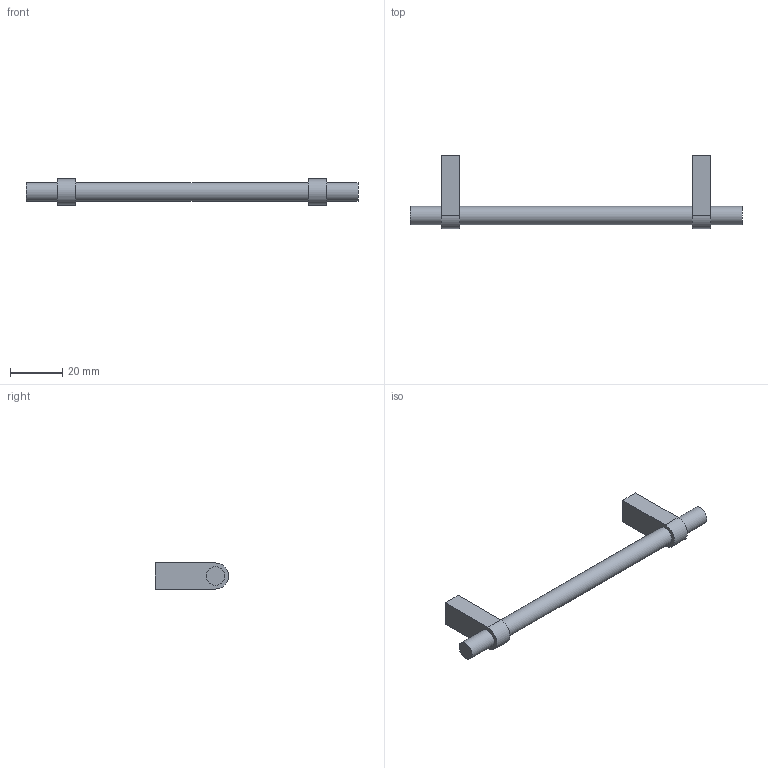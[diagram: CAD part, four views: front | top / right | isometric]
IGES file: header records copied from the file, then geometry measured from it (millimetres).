
Start section: Data from Parasolid IGES Translator 15.0.47, Copyright(c) 2006 Siemens P LM Software. All Rights Reserved.
Global section: file name: 9071156.igs; native system:  By UGS Corp.; preprocessor: XPlus GENERIC/IGES 3.0; author: Noname; organization: Noname; date: 20140122.170420; units: millimetre
Bounding box: 127 x 28 x 10 mm (x, y, z)
Surface area: 4803.2 mm2 (no closed solid volume)
Topology: 0 solids, 0 shells, 21 faces, 78 edges, 68 vertices
Faces by surface type: extrusion 14, revolution 7
